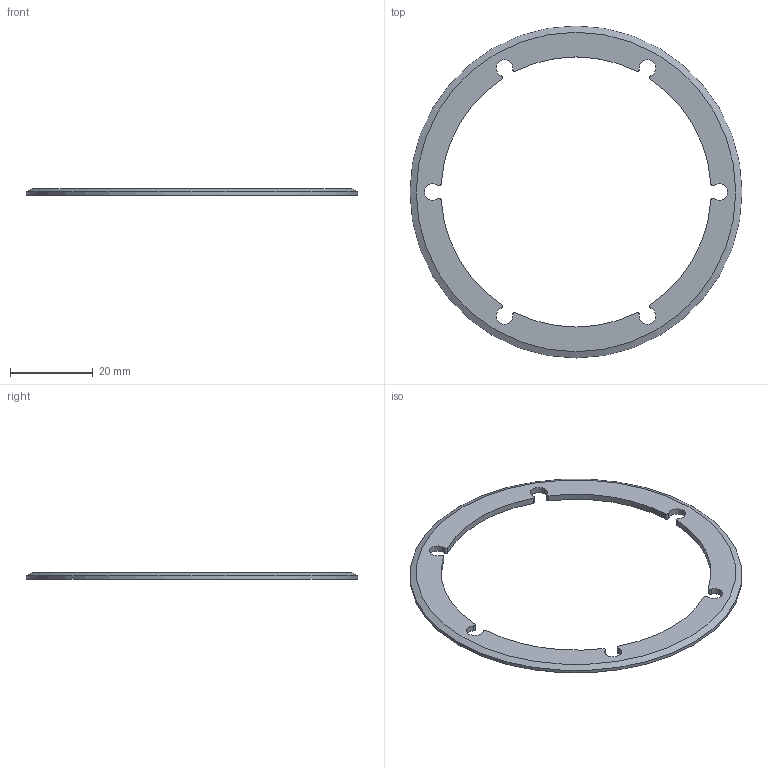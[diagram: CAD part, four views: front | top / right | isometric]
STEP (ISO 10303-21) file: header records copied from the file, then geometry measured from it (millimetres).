
FILE_DESCRIPTION(/* description */ ('CAx-IF Rec.Pracs.---Representation and Presentation of Product Manufacturing Information (PMI)---4.0---2014-10-13','CAx-IF Rec.Pracs.---3D Tessellated Geometry---0.4---2014-09-14','2;1'),/* implementation_level */ '2;1');
FILE_NAME(/* name */ 'qc1_p19',/* time_stamp */ '2026-07-25T07:41:41+03:00',/* author */ (''),/* organization */ (''),/* preprocessor_version */ 'ST-DEVELOPER v19.4',/* originating_system */ 'SIEMENS PLM Software NX2306.1700',/* authorisation */ $);
FILE_SCHEMA (('AP242_MANAGED_MODEL_BASED_3D_ENGINEERING_MIM_LF { 1 0 10303 442 3 1 4 }'));
Length unit declared in the file: millimetre
Products named in the file (1): qc1_p19
Bounding box: 80 x 80 x 1.5 mm (x, y, z)
Volume: 2288.5 mm3; surface area: 3840.4 mm2
Topology: 1 solids, 1 shells, 28 faces, 77 edges, 51 vertices
Faces by surface type: cylinder 25, plane 2, cone 1
Full cylindrical faces by diameter (mm): 80 x1
Entity records: 940 total; most frequent: DIRECTION 184, CARTESIAN_POINT 155, ORIENTED_EDGE 150, AXIS2_PLACEMENT_3D 80, EDGE_CURVE 75, VERTEX_POINT 51, CIRCLE 51, EDGE_LOOP 32
